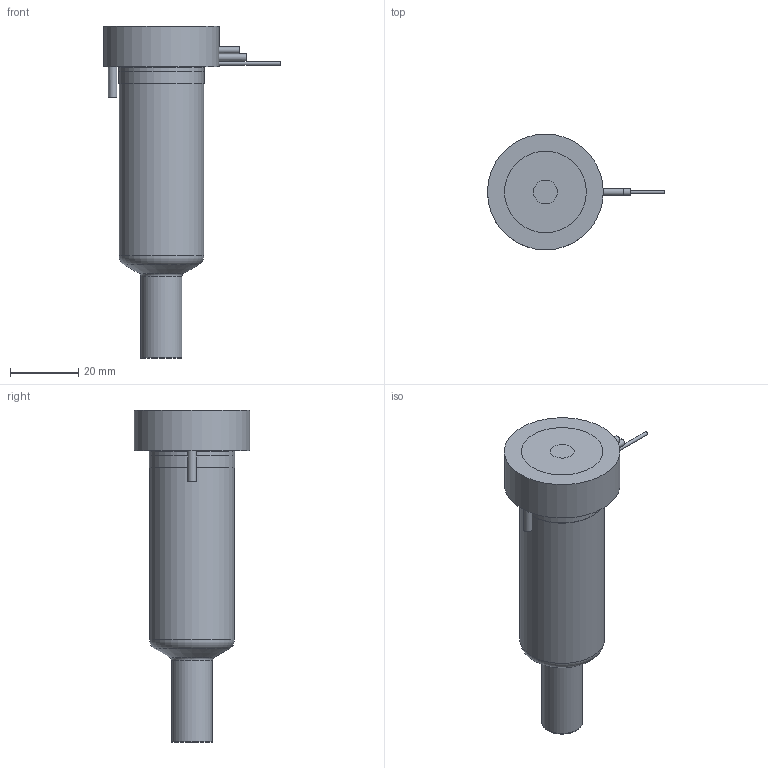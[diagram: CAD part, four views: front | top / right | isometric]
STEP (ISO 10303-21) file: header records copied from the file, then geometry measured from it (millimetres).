
FILE_DESCRIPTION(/* description */ (''),/* implementation_level */ '2;1');
FILE_NAME(/* name */ 'MXYCN16065N3U_200C_a',/* time_stamp */ '2016-02-29T09:25:55+13:00',/* author */ (''),/* organization */ (''),/* preprocessor_version */ 'ST-DEVELOPER v9',/* originating_system */ 'UGS - NX 4.0',/* authorisation */ '');
FILE_SCHEMA (('CONFIG_CONTROL_DESIGN'));
Length unit declared in the file: millimetre
Products named in the file (1): mattB1369xfv
Bounding box: 51.95 x 34 x 97.44 mm (x, y, z)
Volume: 71476.8 mm3; surface area: 16866.5 mm2
Topology: 2 solids, 2 shells, 71 faces, 156 edges, 102 vertices
Faces by surface type: plane 31, cylinder 26, torus 7, cone 5, bspline 1, sphere 1
Full cylindrical faces by diameter (mm): 1 x2, 1.5 x1, 2 x2, 2.5 x1, 5 x1, 7 x1, 11.61 x1, 11.995 x2, 14.8 x1, 20.8 x1, 24.9 x1, 25 x2, 34 x1
Entity records: 2121 total; most frequent: CARTESIAN_POINT 614, DIRECTION 314, ORIENTED_EDGE 234, AXIS2_PLACEMENT_3D 141, EDGE_CURVE 117, EDGE_LOOP 114, VERTEX_POINT 91, ADVANCED_FACE 71
